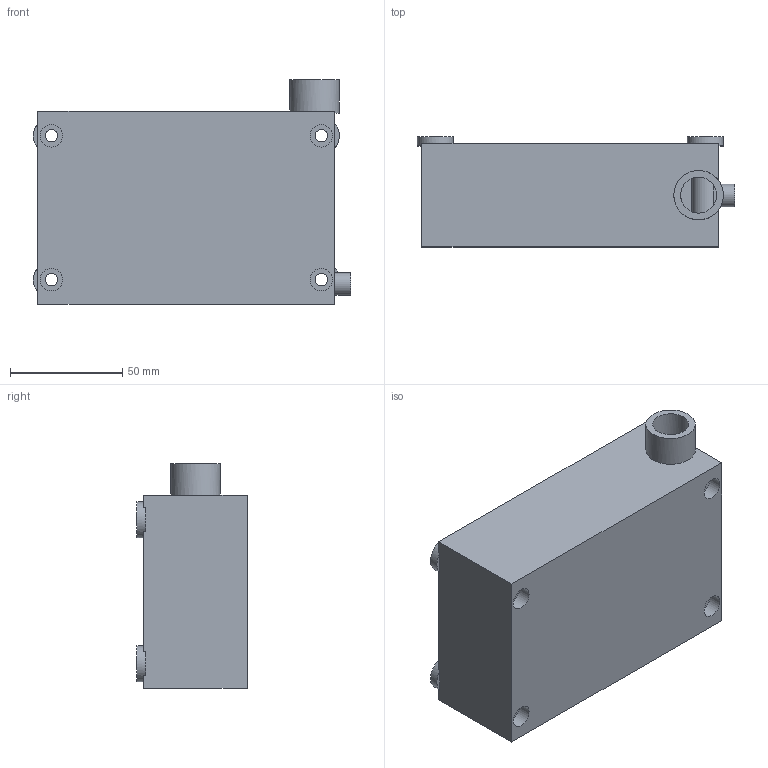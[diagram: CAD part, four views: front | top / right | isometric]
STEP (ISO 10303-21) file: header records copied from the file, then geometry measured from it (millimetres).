
FILE_DESCRIPTION(('Open CASCADE Model'),'2;1');
FILE_NAME('Open CASCADE Shape Model','2026-10-13T15:24:31',('Author'),( 'Open CASCADE'),'Open CASCADE STEP processor 8.0','build123d', 'Unknown');
FILE_SCHEMA(('AUTOMOTIVE_DESIGN { 1 0 10303 214 1 1 1 1 }'));
Length unit declared in the file: millimetre
Products named in the file (1): COMPOUND
Bounding box: 141 x 49 x 100 mm (x, y, z)
Volume: 131113.7 mm3; surface area: 101227.6 mm2
Topology: 1 solids, 1 shells, 98 faces, 288 edges, 192 vertices
Faces by surface type: plane 78, cylinder 20
Full cylindrical faces by diameter (mm): 4.2 x1, 5.5 x4, 10 x5, 16 x5, 22 x1
Entity records: 7220 total; most frequent: CARTESIAN_POINT 1476, DIRECTION 1068, LINE 749, VECTOR 749, ORIENTED_EDGE 576, PCURVE 576, DEFINITIONAL_REPRESENTATION 576, EDGE_CURVE 288
